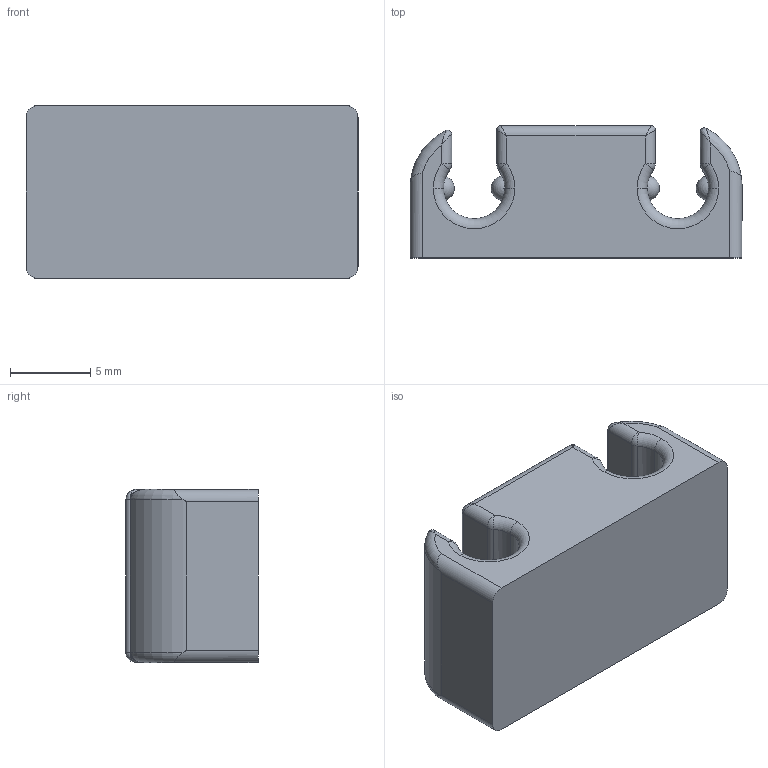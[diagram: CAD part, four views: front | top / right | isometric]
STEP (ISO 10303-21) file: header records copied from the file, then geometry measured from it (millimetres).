
FILE_DESCRIPTION (( 'STEP AP203' ), '1' );
FILE_NAME ('5013020_REV-A - 2X 0.156 TUBING SEPARATOR CLIP.STEP', '2026-08-27T16:23:31', ( '' ), ( '' ), 'SwSTEP 2.0', 'SolidWorks 2019', '' );
FILE_SCHEMA (( 'CONFIG_CONTROL_DESIGN' ));
Length unit declared in the file: inch
Products named in the file (1): 5013020_REV-A - 2X 0.156 TUBING SEPARATOR CLIP
Bounding box: 20.7 x 8.24 x 10.79 mm (x, y, z)
Volume: 1394.2 mm3; surface area: 1056 mm2
Topology: 1 solids, 1 shells, 80 faces, 194 edges, 102 vertices
Faces by surface type: cylinder 30, torus 16, sphere 16, plane 10, bspline 8
Entity records: 2708 total; most frequent: CARTESIAN_POINT 934, DIRECTION 364, ORIENTED_EDGE 356, EDGE_CURVE 178, AXIS2_PLACEMENT_3D 153, VERTEX_POINT 100, EDGE_LOOP 80, FACE_OUTER_BOUND 80
